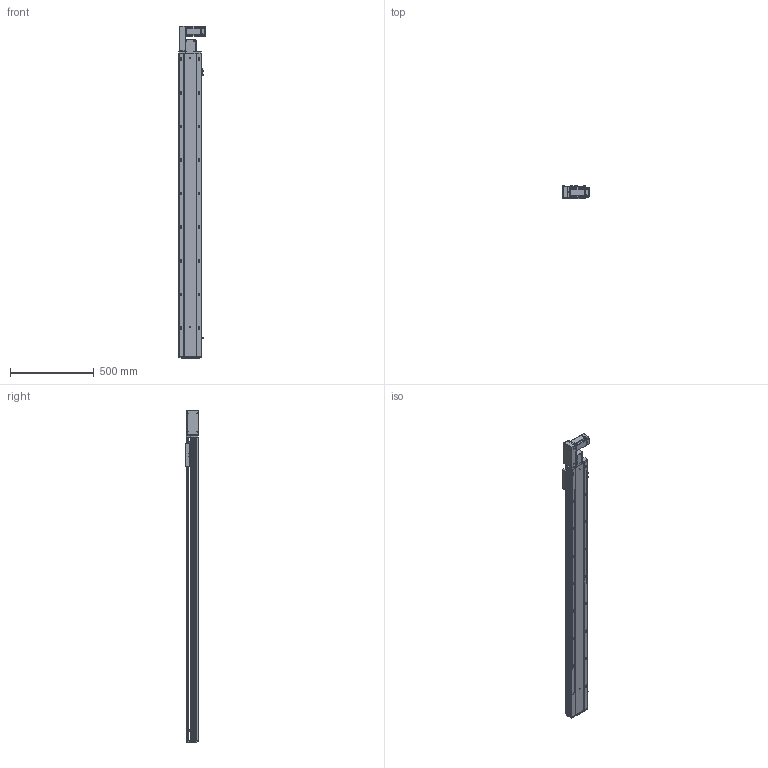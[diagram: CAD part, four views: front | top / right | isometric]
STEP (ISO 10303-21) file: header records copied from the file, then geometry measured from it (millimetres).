
FILE_DESCRIPTION (( 'STEP AP203' ), '1' );
FILE_NAME ('RY140-T-300-LK.SLDASM_1550.step', '2021-03-01T06:36:22', ( '盈信电脑' ), ( '东莞市道滘镇水果街19号' ), 'SwSTEP 2.0', 'SolidWorks 2012', '' );
FILE_SCHEMA (( 'CONFIG_CONTROL_DESIGN' ));
Length unit declared in the file: millimetre
Products named in the file (18): 滅袉蝶18-10; RY140-T翋肮謫裔啣; RY140-T-300-LK.SLDASM_1550; RY120-T蹟翐M4; RY140-T萇儂欶; RY120-T主同步轮轴承压盖; 侂狟400W侜督萇儂; RY120-T肮祭湍揤踡輸1; RY140-T萇儂假蚾啣; 15; RY140-T翋肮祭謫盓傅釱; RY120外置感应片(140共用）; 覜茼ん672; RY120-T肮祭湍揤踡輸2; RY140-T-300-DL倰第奻裔啣_1550; RY140肮祭謫臏賑輸; RY140綴裔啣; RY140-T-300-DL倰第菁釱_1550
Assembly tree (23 placements, depth 3):
  RY140-T-300-LK.SLDASM_1550
    RY140-T-300-DL倰第菁釱_1550
    RY140肮祭謫臏賑輸
    RY140-T-300-DL倰第奻裔啣_1550
    RY140綴裔啣
    覜茼ん672  x3
    RY120外置感应片(140共用）
    RY120-T肮祭湍揤踡輸2
    RY120-T肮祭湍揤踡輸1
    RY140-T翋肮祭謫盓傅釱
    RY140-T萇儂假蚾啣
    侂狟400W侜督萇儂
      15
    RY120-T主同步轮轴承压盖
    RY120-T蹟翐M4  x4
    RY140-T萇儂欶
    滅袉蝶18-10  x2
    RY140-T翋肮謫裔啣
Bounding box: 157 x 78 x 1976.5 mm (x, y, z)
Volume: 5313452.6 mm3; surface area: 2061327.2 mm2
Topology: 22 solids, 22 shells, 2775 faces, 7597 edges, 4848 vertices
Faces by surface type: plane 1381, cylinder 1036, cone 258, bspline 100
Entity records: 87581 total; most frequent: CARTESIAN_POINT 21263, ORIENTED_EDGE 13602, DIRECTION 13001, EDGE_CURVE 6801, VERTEX_POINT 4447, AXIS2_PLACEMENT_3D 4344, VECTOR 4313, LINE 4313
